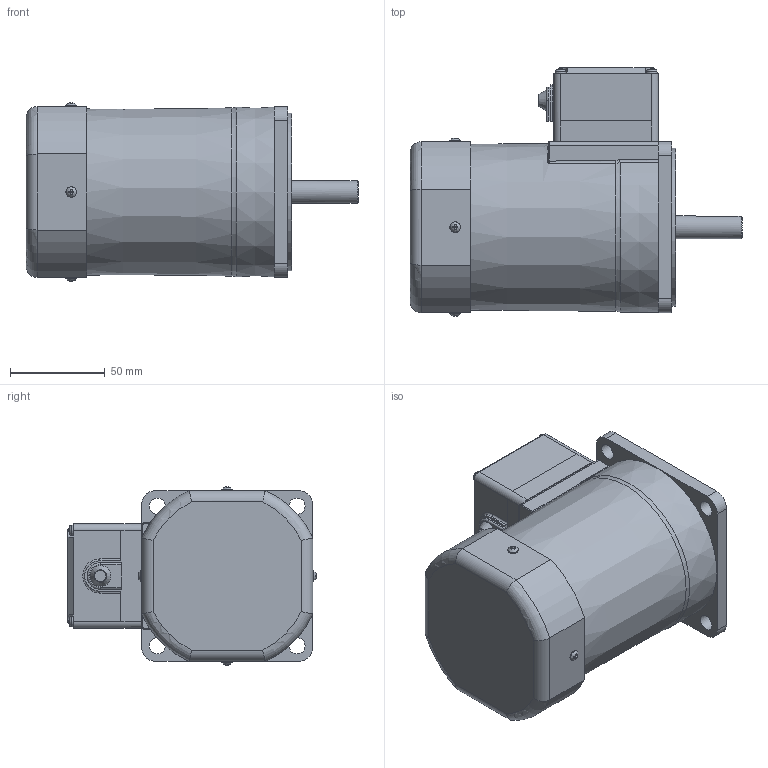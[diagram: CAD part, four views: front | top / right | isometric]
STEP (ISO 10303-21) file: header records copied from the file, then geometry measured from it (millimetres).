
FILE_DESCRIPTION(/* description */ (''),/* implementation_level */ '2;1');
FILE_NAME(/* name */ 'E:\도면작업\2016\0704) 미주향 SG 도면\3D MOTOR\TERMINAL BOX TYPE\INDUCTION TERMINAL BOX\SG9I90K_-T1.stp',/* time_stamp */ '2017-01-23T19:26:54+09:00',/* author */ ('jy-jung'),/* organization */ (''),/* preprocessor_version */ 'ST-DEVELOPER v15.6',/* originating_system */ 'Autodesk Inventor 2015',/* authorisation */ '');
FILE_SCHEMA (('AUTOMOTIVE_DESIGN { 1 0 10303 214 3 1 1 }'));
Length unit declared in the file: millimetre
Products named in the file (1): 부품2
Bounding box: 174.8 x 130.95 x 93.89 mm (x, y, z)
Volume: 1014649.4 mm3; surface area: 71446.8 mm2
Topology: 1 solids, 6 shells, 356 faces, 928 edges, 597 vertices
Faces by surface type: plane 174, cylinder 67, cone 48, torus 39, bspline 24, sphere 4
Full cylindrical faces by diameter (mm): 3 x4, 3.5 x4, 5.6 x4, 8 x1, 8.5 x4, 12 x1, 40 x1, 83 x1
Entity records: 12025 total; most frequent: CARTESIAN_POINT 3472, ORIENTED_EDGE 1738, DIRECTION 1638, EDGE_CURVE 869, AXIS2_PLACEMENT_3D 624, VERTEX_POINT 586, EDGE_LOOP 433, LINE 390
